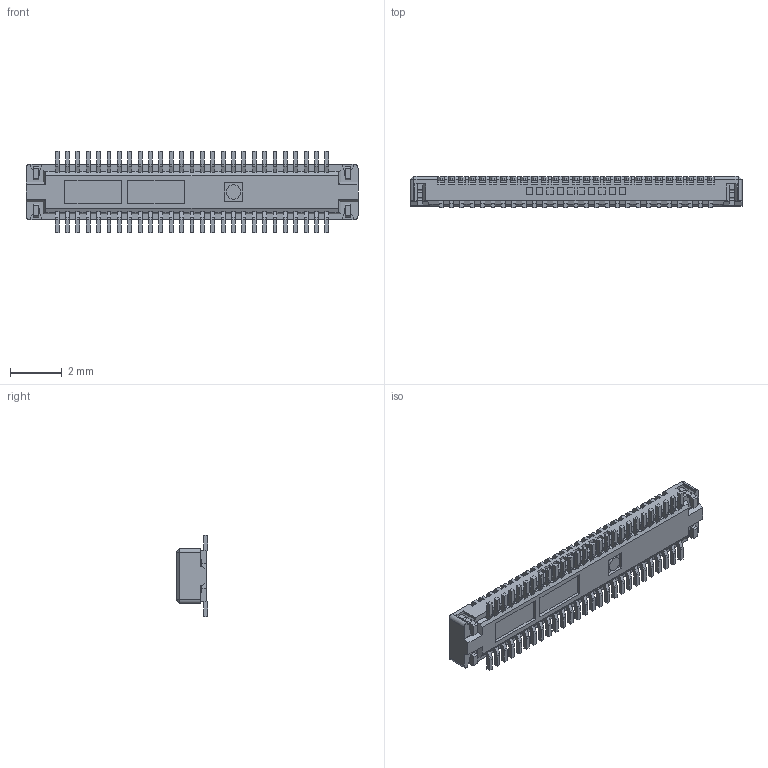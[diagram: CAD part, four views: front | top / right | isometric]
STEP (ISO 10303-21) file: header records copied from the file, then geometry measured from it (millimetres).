
FILE_DESCRIPTION((''),'2;1');
FILE_NAME('559095472','2014-01-29T',('me'),(''),'PRO/ENGINEER BY PARAMETRIC TECHNOLOGY CORPORATION, 2011490','PRO/ENGINEER BY PARAMETRIC TECHNOLOGY CORPORATION, 2011490','');
FILE_SCHEMA(('CONFIG_CONTROL_DESIGN'));
Length unit declared in the file: millimetre
Products named in the file (1): 559095472
Bounding box: 12.8 x 1.2 x 3.13 mm (x, y, z)
Volume: 16.7 mm3; surface area: 145.7 mm2
Topology: 1 solids, 1 shells, 1558 faces, 4867 edges, 3336 vertices
Faces by surface type: plane 1258, cylinder 296, cone 4
Entity records: 54416 total; most frequent: CARTESIAN_POINT 11726, ORIENTED_EDGE 9268, DIRECTION 7975, EDGE_CURVE 4634, VECTOR 4005, LINE 4005, VERTEX_POINT 3102, AXIS2_PLACEMENT_3D 1985
